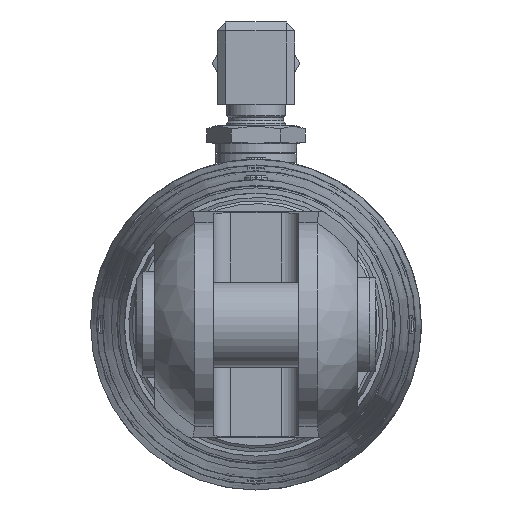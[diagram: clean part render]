
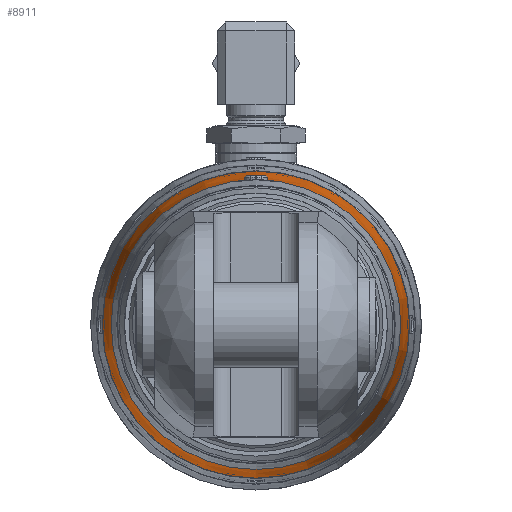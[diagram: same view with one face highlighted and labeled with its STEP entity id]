
A CAD part, left-side view. The second image highlights one B-rep face of the part: STEP entity #8911.
In plain terms, the highlighted conical face has half-angle 5 degrees and reference radius 33.487 mm.
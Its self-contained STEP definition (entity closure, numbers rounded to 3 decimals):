
#666=LINE('',#15537,#1240);
#1240=VECTOR('',#11657,33.488);
#1692=CONICAL_SURFACE('',#9724,33.488,0.087);
#2626=FACE_OUTER_BOUND('',#3156,.T.);
#3156=EDGE_LOOP('',(#7580,#7581,#7582,#7583,#7584,#7585));
#3626=CIRCLE('',#9725,34.431);
#3627=CIRCLE('',#9726,34.431);
#3628=CIRCLE('',#9727,32.5);
#3629=CIRCLE('',#9728,32.5);
#4387=VERTEX_POINT('',#15532);
#4388=VERTEX_POINT('',#15533);
#4389=VERTEX_POINT('',#15536);
#4390=VERTEX_POINT('',#15538);
#5505=EDGE_CURVE('',#4387,#4388,#3626,.T.);
#5506=EDGE_CURVE('',#4388,#4387,#3627,.T.);
#5507=EDGE_CURVE('',#4388,#4389,#666,.T.);
#5508=EDGE_CURVE('',#4390,#4389,#3628,.T.);
#5509=EDGE_CURVE('',#4389,#4390,#3629,.T.);
#7580=ORIENTED_EDGE('',*,*,#5505,.F.);
#7581=ORIENTED_EDGE('',*,*,#5506,.F.);
#7582=ORIENTED_EDGE('',*,*,#5507,.T.);
#7583=ORIENTED_EDGE('',*,*,#5508,.F.);
#7584=ORIENTED_EDGE('',*,*,#5509,.F.);
#7585=ORIENTED_EDGE('',*,*,#5507,.F.);
#8911=ADVANCED_FACE('',(#2626),#1692,.T.);
#9724=AXIS2_PLACEMENT_3D('',#15531,#11651,#11652);
#9725=AXIS2_PLACEMENT_3D('',#15534,#11653,#11654);
#9726=AXIS2_PLACEMENT_3D('',#15535,#11655,#11656);
#9727=AXIS2_PLACEMENT_3D('',#15539,#11658,#11659);
#9728=AXIS2_PLACEMENT_3D('',#15540,#11660,#11661);
#11651=DIRECTION('center_axis',(1.,0.,0.));
#11652=DIRECTION('ref_axis',(0.,0.,
1.));
#11653=DIRECTION('center_axis',(1.,0.,0.));
#11654=DIRECTION('ref_axis',(0.,0.,
-1.));
#11655=DIRECTION('center_axis',(1.,0.,0.));
#11656=DIRECTION('ref_axis',(0.,0.,
-1.));
#11657=DIRECTION('',(-0.996,0.,0.087));
#11658=DIRECTION('center_axis',(-1.,0.,0.));
#11659=DIRECTION('ref_axis',(0.,0.,
-1.));
#11660=DIRECTION('center_axis',(-1.,0.,0.));
#11661=DIRECTION('ref_axis',(0.,0.,
-1.));
#15531=CARTESIAN_POINT('Origin',(-414.287,0.,
0.));
#15532=CARTESIAN_POINT('',(-403.498,0.,34.431));
#15533=CARTESIAN_POINT('',(-403.498,0.,-34.431));
#15534=CARTESIAN_POINT('Origin',(-403.498,0.,0.));
#15535=CARTESIAN_POINT('Origin',(-403.498,0.,0.));
#15536=CARTESIAN_POINT('',(-425.574,0.,-32.5));
#15537=CARTESIAN_POINT('',(-414.287,0.,-33.487));
#15538=CARTESIAN_POINT('',(-425.574,0.,32.5));
#15539=CARTESIAN_POINT('Origin',(-425.574,0.,
0.));
#15540=CARTESIAN_POINT('Origin',(-425.574,0.,
0.));
